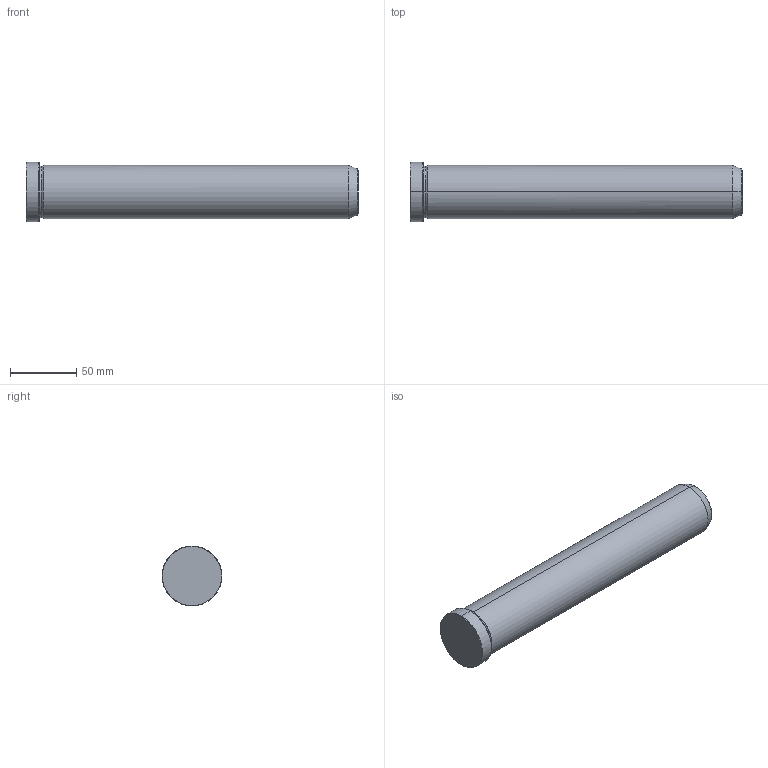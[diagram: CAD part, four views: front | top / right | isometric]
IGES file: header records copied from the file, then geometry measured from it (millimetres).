
Start section: START RECORD GO HERE.
Global section: file name: 549-40X250.igs; native system: DASSAULT SYSTEMES CATIA V5 R20 - www.3ds.com; preprocessor: CATIA Version 5 Release 20 ; author: Utente; organization: NB04-ASUS; date: 20211218.091355; units: millimetre
Bounding box: 250 x 45 x 45 mm (x, y, z)
Surface area: 34429 mm2 (no closed solid volume)
Topology: 0 solids, 0 shells, 19 faces, 112 edges, 112 vertices
Faces by surface type: revolution 16, plane 3
